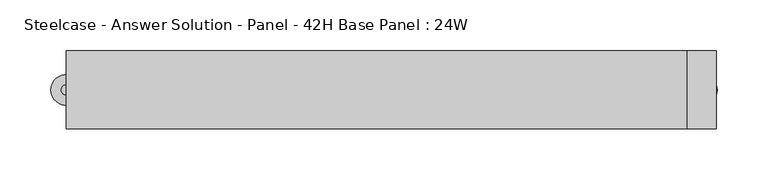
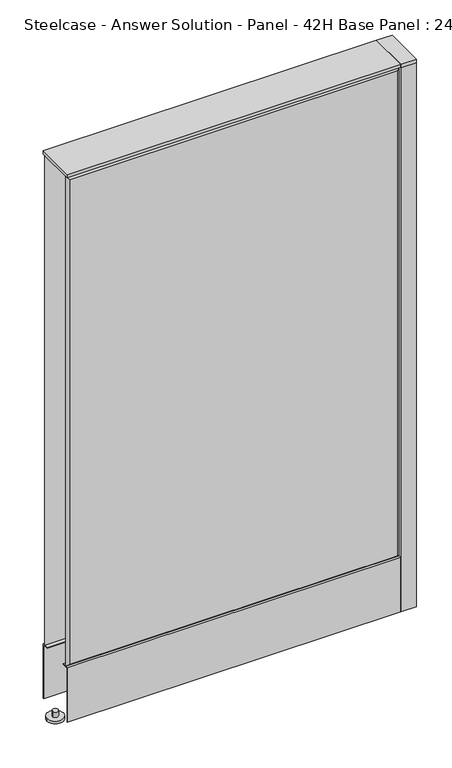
"""IFC4 building model written with IfcOpenShell, lengths in millimetres: furniture geometry, Steelcase - Answer Solution - Panel - 42H Base Panel : 24W."""

from ifc_helpers import new_model, si_unit, point, frame, frame_2d, origin, place, context, project, spatial, polyline, circle_curve, trimmed, segment, composite_curve, outline, extrude, faceted_brep, source, transform, mapped, element, save


def steelcase_answer_solution_panel_42h_base_panel_24w_4f9bb5aa(model_context):
    return source(origin(), model_context, "Body", "SolidModel", [
        extrude(outline(composite_curve([segment(trimmed(circle_curve(frame_2d((319.024, 0.0039657)), 5.08), [point((324.104, 0.0039657))], [point((313.944, 0.0039657))], False, "CARTESIAN"), True, "CONTINUOUS"), segment(trimmed(circle_curve(frame_2d((319.024, 0.0039657)), 5.08), [point((313.944, 0.0039657))], [point((324.104, 0.0039657))], False, "CARTESIAN"), True, "CONTINUOUS")], self_intersect=False)), frame((0.0, 0.0, 5.0799671), z_axis=(0.0, 0.0, 1.0), x_axis=(1.0, 0.0, 0.0)), (0.0, 0.0, 1.0), 10.414),
        extrude(outline(composite_curve([segment(trimmed(circle_curve(frame_2d((319.024, 0.0039657)), 15.24), [point((334.264, 0.0039657))], [point((303.784, 0.0039657))], False, "CARTESIAN"), True, "CONTINUOUS"), segment(trimmed(circle_curve(frame_2d((319.024, 0.0039657)), 15.24), [point((303.784, 0.0039657))], [point((334.264, 0.0039657))], False, "CARTESIAN"), True, "CONTINUOUS")], self_intersect=False)), frame((0.0, 0.0, -3.29e-05), z_axis=(0.0, 0.0, 1.0), x_axis=(1.0, 0.0, 0.0)), (0.0, 0.0, 1.0), 5.08),
        extrude(outline(polyline([(333.375, 38.1039851), (333.375, -38.0960149), (304.8, -38.0960149), (304.8, 38.1039851), (333.375, 38.1039851)])), frame((0.0, 0.0, 1065.8348), z_axis=(0.0, 0.0, 1.0), x_axis=(1.0, 0.0, 0.0)), (0.0, 0.0, 1.0), 7.3151671),
        extrude(outline(polyline([(333.375, 38.1039851), (333.375, -38.0960149), (304.8, -38.0960149), (304.8, 38.1039851), (333.375, 38.1039851)])), frame((0.0, 0.0, 15.4939671), z_axis=(0.0, 0.0, 1.0), x_axis=(1.0, 0.0, 0.0)), (0.0, 0.0, 1.0), 1050.3408329),
        extrude(outline(composite_curve([segment(trimmed(circle_curve(frame_2d((-304.8, 0.0039657)), 5.08), [point((-309.88, 0.0039657))], [point((-299.72, 0.0039657))], False, "CARTESIAN"), True, "CONTINUOUS"), segment(trimmed(circle_curve(frame_2d((-304.8, 0.0039657)), 5.08), [point((-299.72, 0.0039657))], [point((-309.88, 0.0039657))], False, "CARTESIAN"), True, "CONTINUOUS")], self_intersect=False)), frame((0.0, 0.0, 5.0799671), z_axis=(0.0, 0.0, 1.0), x_axis=(1.0, 0.0, 0.0)), (0.0, 0.0, 1.0), 10.414),
        extrude(outline(composite_curve([segment(trimmed(circle_curve(frame_2d((-304.8, 0.0039657)), 15.24), [point((-320.04, 0.0039657))], [point((-289.56, 0.0039657))], False, "CARTESIAN"), True, "CONTINUOUS"), segment(trimmed(circle_curve(frame_2d((-304.8, 0.0039657)), 15.24), [point((-289.56, 0.0039657))], [point((-320.04, 0.0039657))], False, "CARTESIAN"), True, "CONTINUOUS")], self_intersect=False)), frame((0.0, 0.0, -3.29e-05), z_axis=(0.0, 0.0, 1.0), x_axis=(1.0, 0.0, 0.0)), (0.0, 0.0, 1.0), 5.08),
        faceted_brep([(-299.974, 38.1635011, 1061.974), (299.974, 38.1635011, 1061.974), (299.974, 38.1635011, 125.476), (-299.974, 38.1635011, 125.476), (-304.8, 33.3375011, 1066.8), (-304.8, 33.3375011, 120.65), (304.8, 33.3375011, 120.65), (304.8, 33.3375011, 1066.8)], [[[0, 1, 2, 3]], [[4, 5, 6, 7]], [[4, 7, 1, 0]], [[7, 6, 2, 1]], [[6, 5, 3, 2]], [[5, 4, 0, 3]]]),
        faceted_brep([(299.974, -38.1635011, 1061.974), (-299.974, -38.1635011, 1061.974), (-299.974, -38.1635011, 125.476), (299.974, -38.1635011, 125.476), (304.8, -33.3375011, 1066.8), (304.8, -33.3375011, 120.65), (-304.8, -33.3375011, 120.65), (-304.8, -33.3375011, 1066.8)], [[[0, 1, 2, 3]], [[4, 5, 6, 7]], [[4, 7, 1, 0]], [[7, 6, 2, 1]], [[6, 5, 3, 2]], [[5, 4, 0, 3]]]),
        extrude(outline(polyline([(304.8, 38.1000194), (304.8, -38.1000194), (-304.8, -38.1000194), (-304.8, 38.1000194), (304.8, 38.1000194)])), frame((0.0, 0.0, 1066.8), z_axis=(0.0, 0.0, 1.0), x_axis=(1.0, 0.0, 0.0)), (0.0, 0.0, 1.0), 6.35),
        extrude(outline(polyline([(25.4000011, 119.8575157), (25.4000011, 120.65), (38.1000194, 120.65), (38.1000194, 15.494), (37.3075215, 15.494), (37.3075215, 119.8575157), (25.4000011, 119.8575157)])), frame((-304.8, 0.0, 0.0), z_axis=(1.0, 0.0, 0.0), x_axis=(0.0, 1.0, 0.0)), (0.0, 0.0, 1.0), 609.6),
        extrude(outline(polyline([(-25.4000011, 119.8575157), (-37.3075215, 119.8575157), (-37.3075215, 15.494), (-38.1000194, 15.494), (-38.1000194, 120.65), (-25.4000011, 120.65), (-25.4000011, 119.8575157)])), frame((-304.8, 0.0, 0.0), z_axis=(1.0, 0.0, 0.0), x_axis=(0.0, 1.0, 0.0)), (0.0, 0.0, 1.0), 609.6),
    ])


if __name__ == "__main__":
    model = new_model("IFC4")
    model_context = context("Model", 3, world=origin())
    ifc_project = project(units=[si_unit("LENGTHUNIT", "METRE", prefix="MILLI")], contexts=[model_context])
    site = spatial("IfcSite", under=ifc_project)
    building = spatial("IfcBuilding", under=site)
    placement = place(None, origin())
    steelcase_answer_solution_panel_42h_base_panel_24w_shape = steelcase_answer_solution_panel_42h_base_panel_24w_4f9bb5aa(model_context)
    element("IfcFurniture", 1, ObjectType="Steelcase - Answer Solution - Panel - 42H Base Panel : 24W", at=placement, inside=building, context=model_context, shape_type="MappedRepresentation", body=[
        mapped(steelcase_answer_solution_panel_42h_base_panel_24w_shape, transform((0.0, 0.0, 0.0), x_axis=(1.0, 0.0, 0.0), y_axis=(0.0, 1.0, 0.0), z_axis=(0.0, 0.0, 1.0))),
    ])
    save(model, "model.ifc")
